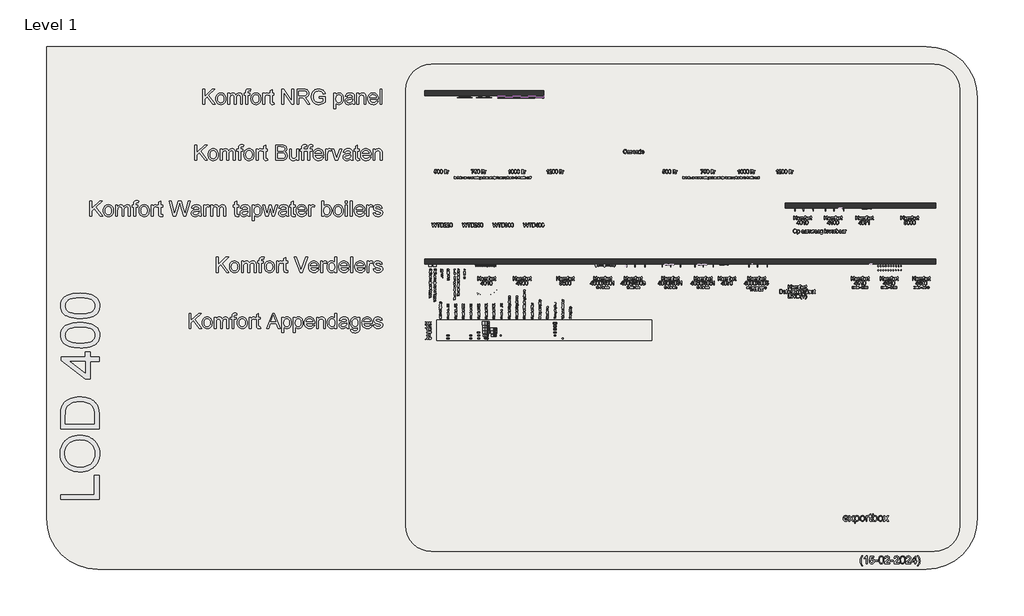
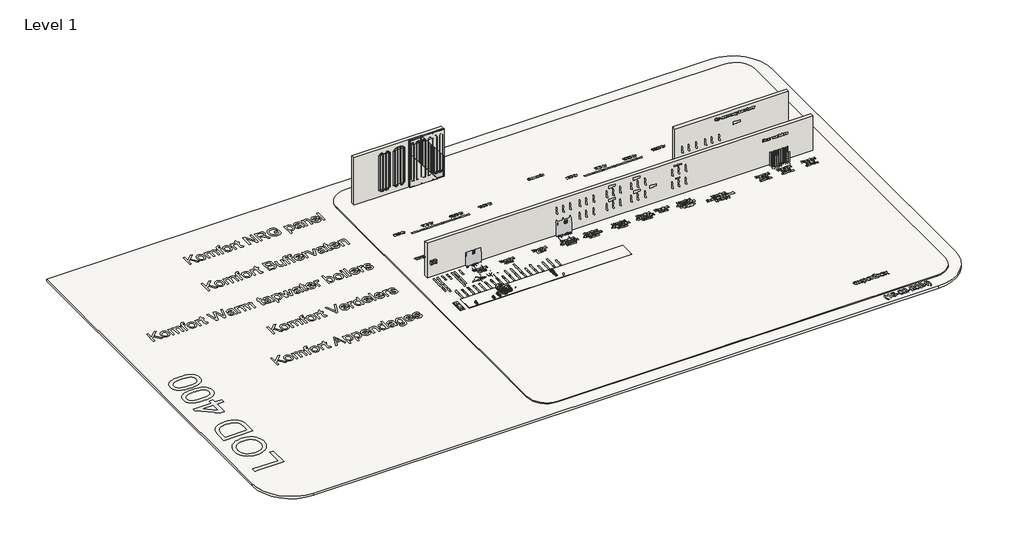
# One storey, part 1 of 34: 29 valves, 17 pipe segments, 10 members, 8 plates, 4 walls, 3 slabs, 2 proxies.
"""IFC4 building model written with IfcOpenShell, lengths in millimetres."""

from ifc_helpers import new_model, si_unit, point, frame, frame_2d, origin, origin_with_axes, place, context, project, spatial, polyline, circle_curve, trimmed, segment, composite_curve, outline, extrude, transform, mapped, element, save
from ifc_brep_helpers import plane_surface, cylinder_surface, revolved_surface, advanced_brep
from components import mechanical_equipment_cd07d01e, rectangular_mullion_c_boven_823d8da8, rectangular_mullion_c_links_526d05c5, rectangular_mullion_c_links_07a1a500, plate_3b3e8741, plate_3755ddb1, system_panel_isolatie_45mm_offset11_8af3e5f7, system_panel_isolatie_45mm_offset11_d03675fc, system_panel_isolatie_45mm_offset11_5da9fec7, valve_56e37d45, valve_d54b975c, valve_6c6028f1, valve_b4a91fd2, valve_7e726bc3, valve_2c07aacf, valve_c4cabec5, valve_452bbaa6, valve_3d6b45a5, valve_3d6cf8aa, valve_750de32e, dn_20_13b06fb2, dn_25_398dad07, dn_32_969b9d6f, dn15_c82197d8, dn15_97eb3d88, dn15_3e07b9b7, dn20_0d739131, dn20_e75ad47f, dn20_bf711299, dn20_8abca789, dn25_fd29e4d5, dn25_933a6ecd, dn32_84c84d50, dn40_05d662e0, dn50_a4595473

model = new_model("IFC4")

# Units and contexts
model_context = context("Model", 3, world=origin())
ifc_project = project(units=[si_unit("LENGTHUNIT", "METRE", prefix="MILLI")], contexts=[model_context])

# Site, building, storey
site = spatial("IfcSite", under=ifc_project)
building = spatial("IfcBuilding", under=site)
storey = spatial("IfcBuildingStorey", under=building, Name="Level 1", Elevation=0.0)

# Proxies
placement = place(None, origin())
mechanical_equipment_shape = mechanical_equipment_cd07d01e(model_context)
element("IfcBuildingElementProxy", 1, Name="400_5-_KOMF_VKRM : Met Tijdvertraging", ObjectType="400_5-_KOMF_VKRM : Met Tijdvertraging", at=placement, inside=storey, context=model_context, shape_type="MappedRepresentation", body=[
    mapped(mechanical_equipment_shape, transform((-17103.7716027, 7589.9863889, 717.5776398), x_axis=(1.0, 0.0, 0.0), y_axis=(0.0, 0.0, 1.0), z_axis=(0.0, -1.0, 0.0))),
])
element("IfcBuildingElementProxy", 2, Name="400_5-_KOMF_VKRM : Zonder Tijdvertraging", ObjectType="400_5-_KOMF_VKRM : Zonder Tijdvertraging", at=placement, inside=storey, context=model_context, shape_type="MappedRepresentation", body=[
    mapped(mechanical_equipment_shape, transform((-16923.7716027, 7589.9863889, 717.5776398), x_axis=(1.0, 0.0, 0.0), y_axis=(0.0, 0.0, 1.0), z_axis=(0.0, -1.0, 0.0))),
])

# Members
rectangular_mullion_c_boven_shape = rectangular_mullion_c_boven_823d8da8(model_context)
element("IfcMember", 3, ObjectType="Rectangular Mullion : C_boven", at=placement, inside=storey, context=model_context, shape_type="MappedRepresentation", body=[
    mapped(rectangular_mullion_c_boven_shape, transform((-13797.9102205, 14154.9863889, 2600.0), x_axis=(0.0, 0.0, 1.0), y_axis=(0.0, -1.0, 0.0), z_axis=(1.0, 0.0, 0.0))),
])
element("IfcMember", 4, ObjectType="Rectangular Mullion : C_boven", at=placement, inside=storey, context=model_context, shape_type="MappedRepresentation", body=[
    mapped(rectangular_mullion_c_boven_shape, transform((-13197.9102205, 14154.9863889, 2600.0), x_axis=(0.0, 0.0, 1.0), y_axis=(0.0, -1.0, 0.0), z_axis=(1.0, 0.0, 0.0))),
])
element("IfcMember", 5, ObjectType="Rectangular Mullion : C_boven", at=placement, inside=storey, context=model_context, shape_type="MappedRepresentation", body=[
    mapped(rectangular_mullion_c_boven_shape, transform((-12597.9102205, 14154.9863889, 2600.0), x_axis=(0.0, 0.0, 1.0), y_axis=(0.0, -1.0, 0.0), z_axis=(1.0, 0.0, 0.0))),
])
rectangular_mullion_c_links_shape = rectangular_mullion_c_links_526d05c5(model_context)
element("IfcMember", 6, ObjectType="Rectangular Mullion : C_links", at=placement, inside=storey, context=model_context, shape_type="MappedRepresentation", body=[
    mapped(rectangular_mullion_c_links_shape, transform((-13797.9102205, 14154.9863889, 40.0), x_axis=(1.0, 0.0, 0.0), y_axis=(0.0, -1.0, 0.0), z_axis=(0.0, 0.0, -1.0))),
])
element("IfcMember", 7, ObjectType="Rectangular Mullion : C_links", at=placement, inside=storey, context=model_context, shape_type="MappedRepresentation", body=[
    mapped(rectangular_mullion_c_links_shape, transform((-13197.9102205, 14154.9863889, 40.0), x_axis=(1.0, 0.0, 0.0), y_axis=(0.0, -1.0, 0.0), z_axis=(0.0, 0.0, -1.0))),
])
rectangular_mullion_c_links_2_shape = rectangular_mullion_c_links_07a1a500(model_context)
element("IfcMember", 8, ObjectType="Rectangular Mullion : C_links", at=placement, inside=storey, context=model_context, shape_type="MappedRepresentation", body=[
    mapped(rectangular_mullion_c_links_2_shape, transform((-14397.9102205, 14154.9863889, 2560.0), x_axis=(-1.0, 0.0, 0.0), y_axis=(0.0, -1.0, 0.0), z_axis=(0.0, 0.0, 1.0))),
])
element("IfcMember", 9, ObjectType="Rectangular Mullion : C_onder", at=placement, inside=storey, context=model_context, shape_type="MappedRepresentation", body=[
    mapped(rectangular_mullion_c_boven_shape, transform((-14397.9102205, 14154.9863889, 0.0), x_axis=(0.0, 0.0, -1.0), y_axis=(0.0, -1.0, 0.0), z_axis=(-1.0, 0.0, 0.0))),
])
element("IfcMember", 10, ObjectType="Rectangular Mullion : C_onder", at=placement, inside=storey, context=model_context, shape_type="MappedRepresentation", body=[
    mapped(rectangular_mullion_c_boven_shape, transform((-13797.9102205, 14154.9863889, 0.0), x_axis=(0.0, 0.0, -1.0), y_axis=(0.0, -1.0, 0.0), z_axis=(-1.0, 0.0, 0.0))),
])
element("IfcMember", 11, ObjectType="Rectangular Mullion : C_onder", at=placement, inside=storey, context=model_context, shape_type="MappedRepresentation", body=[
    mapped(rectangular_mullion_c_boven_shape, transform((-13197.9102205, 14154.9863889, 0.0), x_axis=(0.0, 0.0, -1.0), y_axis=(0.0, -1.0, 0.0), z_axis=(-1.0, 0.0, 0.0))),
])
element("IfcMember", 12, ObjectType="Rectangular Mullion : C_rechts", at=placement, inside=storey, context=model_context, shape_type="MappedRepresentation", body=[
    mapped(rectangular_mullion_c_links_2_shape, transform((-12597.9102205, 14154.9863889, 40.0), x_axis=(1.0, 0.0, 0.0), y_axis=(0.0, -1.0, 0.0), z_axis=(0.0, 0.0, -1.0))),
])

# Pipe segments
element("IfcPipeSegment", 13, ObjectType="Uponor Comfort Pipe PLUS / VVL", at=placement, inside=storey, context=model_context, shape_type="SweptSolid", body=[
    extrude(outline(composite_curve([segment(trimmed(circle_curve(frame_2d((-40.0, -15004.4849522)), 8.5), [point((-40.0, -15012.9849522))], [point((-48.5, -15004.4849522))], False, "CARTESIAN"), True, "CONTINUOUS"), segment(trimmed(circle_curve(frame_2d((-40.0, -15004.4849522)), 8.5), [point((-48.5, -15004.4849522))], [point((-40.0, -14995.9849522))], False, "CARTESIAN"), True, "CONTINUOUS"), segment(trimmed(circle_curve(frame_2d((-40.0, -15004.4849522)), 8.5), [point((-40.0, -14995.9849522))], [point((-31.5, -15004.4849522))], False, "CARTESIAN"), True, "CONTINUOUS"), segment(trimmed(circle_curve(frame_2d((-40.0, -15004.4849522)), 8.5), [point((-31.5, -15004.4849522))], [point((-40.0, -15012.9849522))], False, "CARTESIAN"), True, "CONTINUOUS")], self_intersect=False)), frame((0.0, 6459.4303166, 0.0), z_axis=(0.0, 1.0, 0.0), x_axis=(0.0, 0.0, 1.0)), (0.0, 0.0, 1.0), 246.3199618),
])
element("IfcPipeSegment", 14, ObjectType="Uponor Comfort Pipe PLUS / VVL", at=placement, inside=storey, context=model_context, shape_type="SweptSolid", body=[
    extrude(outline(composite_curve([segment(trimmed(circle_curve(frame_2d((-40.0, -15059.4849522)), 8.5), [point((-40.0, -15067.9849522))], [point((-48.5, -15059.4849522))], False, "CARTESIAN"), True, "CONTINUOUS"), segment(trimmed(circle_curve(frame_2d((-40.0, -15059.4849522)), 8.5), [point((-48.5, -15059.4849522))], [point((-40.0, -15050.9849522))], False, "CARTESIAN"), True, "CONTINUOUS"), segment(trimmed(circle_curve(frame_2d((-40.0, -15059.4849522)), 8.5), [point((-40.0, -15050.9849522))], [point((-31.5, -15059.4849522))], False, "CARTESIAN"), True, "CONTINUOUS"), segment(trimmed(circle_curve(frame_2d((-40.0, -15059.4849522)), 8.5), [point((-31.5, -15059.4849522))], [point((-40.0, -15067.9849522))], False, "CARTESIAN"), True, "CONTINUOUS")], self_intersect=False)), frame((0.0, 6479.6785333, 0.0), z_axis=(0.0, 1.0, 0.0), x_axis=(0.0, 0.0, 1.0)), (0.0, 0.0, 1.0), 226.0717451),
])
element("IfcPipeSegment", 15, ObjectType="Uponor Comfort Pipe PLUS / VVL", at=placement, inside=storey, context=model_context, shape_type="SweptSolid", body=[
    extrude(outline(composite_curve([segment(trimmed(circle_curve(frame_2d((-40.0, -15114.4849522)), 8.5), [point((-40.0, -15122.9849522))], [point((-48.5, -15114.4849522))], False, "CARTESIAN"), True, "CONTINUOUS"), segment(trimmed(circle_curve(frame_2d((-40.0, -15114.4849522)), 8.5), [point((-48.5, -15114.4849522))], [point((-40.0, -15105.9849522))], False, "CARTESIAN"), True, "CONTINUOUS"), segment(trimmed(circle_curve(frame_2d((-40.0, -15114.4849522)), 8.5), [point((-40.0, -15105.9849522))], [point((-31.5, -15114.4849522))], False, "CARTESIAN"), True, "CONTINUOUS"), segment(trimmed(circle_curve(frame_2d((-40.0, -15114.4849522)), 8.5), [point((-31.5, -15114.4849522))], [point((-40.0, -15122.9849522))], False, "CARTESIAN"), True, "CONTINUOUS")], self_intersect=False)), frame((0.0, 6504.8821347, 0.0), z_axis=(0.0, 1.0, 0.0), x_axis=(0.0, 0.0, 1.0)), (0.0, 0.0, 1.0), 200.8681436),
])
element("IfcPipeSegment", 16, ObjectType="Uponor Comfort Pipe PLUS / VVL", at=placement, inside=storey, context=model_context, shape_type="SweptSolid", body=[
    extrude(outline(composite_curve([segment(trimmed(circle_curve(frame_2d((-40.0, -15169.4849522)), 8.5), [point((-40.0, -15177.9849522))], [point((-48.5, -15169.4849522))], False, "CARTESIAN"), True, "CONTINUOUS"), segment(trimmed(circle_curve(frame_2d((-40.0, -15169.4849522)), 8.5), [point((-48.5, -15169.4849522))], [point((-40.0, -15160.9849522))], False, "CARTESIAN"), True, "CONTINUOUS"), segment(trimmed(circle_curve(frame_2d((-40.0, -15169.4849522)), 8.5), [point((-40.0, -15160.9849522))], [point((-31.5, -15169.4849522))], False, "CARTESIAN"), True, "CONTINUOUS"), segment(trimmed(circle_curve(frame_2d((-40.0, -15169.4849522)), 8.5), [point((-31.5, -15169.4849522))], [point((-40.0, -15177.9849522))], False, "CARTESIAN"), True, "CONTINUOUS")], self_intersect=False)), frame((0.0, 6537.6644702, 0.0), z_axis=(0.0, 1.0, 0.0), x_axis=(0.0, 0.0, 1.0)), (0.0, 0.0, 1.0), 168.0858081),
])
element("IfcPipeSegment", 17, ObjectType="Uponor Comfort Pipe PLUS / VVL", at=placement, inside=storey, context=model_context, shape_type="SweptSolid", body=[
    extrude(outline(composite_curve([segment(trimmed(circle_curve(frame_2d((-40.0, -15224.4849522)), 8.5), [point((-40.0, -15232.9849522))], [point((-48.5, -15224.4849522))], False, "CARTESIAN"), True, "CONTINUOUS"), segment(trimmed(circle_curve(frame_2d((-40.0, -15224.4849522)), 8.5), [point((-48.5, -15224.4849522))], [point((-40.0, -15215.9849522))], False, "CARTESIAN"), True, "CONTINUOUS"), segment(trimmed(circle_curve(frame_2d((-40.0, -15224.4849522)), 8.5), [point((-40.0, -15215.9849522))], [point((-31.5, -15224.4849522))], False, "CARTESIAN"), True, "CONTINUOUS"), segment(trimmed(circle_curve(frame_2d((-40.0, -15224.4849522)), 8.5), [point((-31.5, -15224.4849522))], [point((-40.0, -15232.9849522))], False, "CARTESIAN"), True, "CONTINUOUS")], self_intersect=False)), frame((0.0, 6581.0303886, 0.0), z_axis=(0.0, 1.0, 0.0), x_axis=(0.0, 0.0, 1.0)), (0.0, 0.0, 1.0), 124.7198897),
])
element("IfcPipeSegment", 18, ObjectType="Uponor Comfort Pipe PLUS / VVL", at=placement, inside=storey, context=model_context, shape_type="SweptSolid", body=[
    extrude(outline(composite_curve([segment(trimmed(circle_curve(frame_2d((-40.0, -15279.4849522)), 8.5), [point((-40.0, -15270.9849522))], [point((-31.5, -15279.4849522))], False, "CARTESIAN"), True, "CONTINUOUS"), segment(trimmed(circle_curve(frame_2d((-40.0, -15279.4849522)), 8.5), [point((-31.5, -15279.4849522))], [point((-40.0, -15287.9849522))], False, "CARTESIAN"), True, "CONTINUOUS"), segment(trimmed(circle_curve(frame_2d((-40.0, -15279.4849522)), 8.5), [point((-40.0, -15287.9849522))], [point((-48.5, -15279.4849522))], False, "CARTESIAN"), True, "CONTINUOUS"), segment(trimmed(circle_curve(frame_2d((-40.0, -15279.4849522)), 8.5), [point((-48.5, -15279.4849522))], [point((-40.0, -15270.9849522))], False, "CARTESIAN"), True, "CONTINUOUS")], self_intersect=False)), frame((0.0, 6640.2990542, 0.0), z_axis=(0.0, 1.0, 0.0), x_axis=(0.0, 0.0, 1.0)), (0.0, 0.0, 1.0), 65.4512241),
])
element("IfcPipeSegment", 19, ObjectType="Uponor Comfort Pipe PLUS / VVL", at=placement, inside=storey, context=model_context, shape_type="SweptSolid", body=[
    extrude(outline(composite_curve([segment(trimmed(circle_curve(frame_2d((-40.0, -15031.9849522)), 8.5), [point((-40.0, -15040.4849522))], [point((-48.5, -15031.9849522))], False, "CARTESIAN"), True, "CONTINUOUS"), segment(trimmed(circle_curve(frame_2d((-40.0, -15031.9849522)), 8.5), [point((-48.5, -15031.9849522))], [point((-40.0, -15023.4849522))], False, "CARTESIAN"), True, "CONTINUOUS"), segment(trimmed(circle_curve(frame_2d((-40.0, -15031.9849522)), 8.5), [point((-40.0, -15023.4849522))], [point((-31.5, -15031.9849522))], False, "CARTESIAN"), True, "CONTINUOUS"), segment(trimmed(circle_curve(frame_2d((-40.0, -15031.9849522)), 8.5), [point((-31.5, -15031.9849522))], [point((-40.0, -15040.4849522))], False, "CARTESIAN"), True, "CONTINUOUS")], self_intersect=False)), frame((0.0, 6469.1255845, 0.0), z_axis=(0.0, 1.0, 0.0), x_axis=(0.0, 0.0, 1.0)), (0.0, 0.0, 1.0), 236.6246939),
])
element("IfcPipeSegment", 20, ObjectType="Uponor Comfort Pipe PLUS / VVL", at=placement, inside=storey, context=model_context, shape_type="SweptSolid", body=[
    extrude(outline(composite_curve([segment(trimmed(circle_curve(frame_2d((-40.0, -15086.9849522)), 8.5), [point((-40.0, -15095.4849522))], [point((-48.5, -15086.9849522))], False, "CARTESIAN"), True, "CONTINUOUS"), segment(trimmed(circle_curve(frame_2d((-40.0, -15086.9849522)), 8.5), [point((-48.5, -15086.9849522))], [point((-40.0, -15078.4849522))], False, "CARTESIAN"), True, "CONTINUOUS"), segment(trimmed(circle_curve(frame_2d((-40.0, -15086.9849522)), 8.5), [point((-40.0, -15078.4849522))], [point((-31.5, -15086.9849522))], False, "CARTESIAN"), True, "CONTINUOUS"), segment(trimmed(circle_curve(frame_2d((-40.0, -15086.9849522)), 8.5), [point((-31.5, -15086.9849522))], [point((-40.0, -15095.4849522))], False, "CARTESIAN"), True, "CONTINUOUS")], self_intersect=False)), frame((0.0, 6491.4890493, 0.0), z_axis=(0.0, 1.0, 0.0), x_axis=(0.0, 0.0, 1.0)), (0.0, 0.0, 1.0), 214.261229),
])
element("IfcPipeSegment", 21, ObjectType="Uponor Comfort Pipe PLUS / VVL", at=placement, inside=storey, context=model_context, shape_type="SweptSolid", body=[
    extrude(outline(composite_curve([segment(trimmed(circle_curve(frame_2d((-40.0, -15141.9849522)), 8.5), [point((-40.0, -15150.4849522))], [point((-48.5, -15141.9849522))], False, "CARTESIAN"), True, "CONTINUOUS"), segment(trimmed(circle_curve(frame_2d((-40.0, -15141.9849522)), 8.5), [point((-48.5, -15141.9849522))], [point((-40.0, -15133.4849522))], False, "CARTESIAN"), True, "CONTINUOUS"), segment(trimmed(circle_curve(frame_2d((-40.0, -15141.9849522)), 8.5), [point((-40.0, -15133.4849522))], [point((-31.5, -15141.9849522))], False, "CARTESIAN"), True, "CONTINUOUS"), segment(trimmed(circle_curve(frame_2d((-40.0, -15141.9849522)), 8.5), [point((-31.5, -15141.9849522))], [point((-40.0, -15150.4849522))], False, "CARTESIAN"), True, "CONTINUOUS")], self_intersect=False)), frame((0.0, 6520.163977, 0.0), z_axis=(0.0, 1.0, 0.0), x_axis=(0.0, 0.0, 1.0)), (0.0, 0.0, 1.0), 185.5863014),
])
element("IfcPipeSegment", 22, ObjectType="Uponor Comfort Pipe PLUS / VVL", at=placement, inside=storey, context=model_context, shape_type="SweptSolid", body=[
    extrude(outline(composite_curve([segment(trimmed(circle_curve(frame_2d((-40.0, -15196.9849522)), 8.5), [point((-40.0, -15205.4849522))], [point((-48.5, -15196.9849522))], False, "CARTESIAN"), True, "CONTINUOUS"), segment(trimmed(circle_curve(frame_2d((-40.0, -15196.9849522)), 8.5), [point((-48.5, -15196.9849522))], [point((-40.0, -15188.4849522))], False, "CARTESIAN"), True, "CONTINUOUS"), segment(trimmed(circle_curve(frame_2d((-40.0, -15196.9849522)), 8.5), [point((-40.0, -15188.4849522))], [point((-31.5, -15196.9849522))], False, "CARTESIAN"), True, "CONTINUOUS"), segment(trimmed(circle_curve(frame_2d((-40.0, -15196.9849522)), 8.5), [point((-31.5, -15196.9849522))], [point((-40.0, -15205.4849522))], False, "CARTESIAN"), True, "CONTINUOUS")], self_intersect=False)), frame((0.0, 6557.7799491, 0.0), z_axis=(0.0, 1.0, 0.0), x_axis=(0.0, 0.0, 1.0)), (0.0, 0.0, 1.0), 147.9703293),
])
element("IfcPipeSegment", 23, ObjectType="Uponor Comfort Pipe PLUS / VVL", at=placement, inside=storey, context=model_context, shape_type="SweptSolid", body=[
    extrude(outline(composite_curve([segment(trimmed(circle_curve(frame_2d((-40.0, -15251.9849522)), 8.5), [point((-40.0, -15260.4849522))], [point((-48.5, -15251.9849522))], False, "CARTESIAN"), True, "CONTINUOUS"), segment(trimmed(circle_curve(frame_2d((-40.0, -15251.9849522)), 8.5), [point((-48.5, -15251.9849522))], [point((-40.0, -15243.4849522))], False, "CARTESIAN"), True, "CONTINUOUS"), segment(trimmed(circle_curve(frame_2d((-40.0, -15251.9849522)), 8.5), [point((-40.0, -15243.4849522))], [point((-31.5, -15251.9849522))], False, "CARTESIAN"), True, "CONTINUOUS"), segment(trimmed(circle_curve(frame_2d((-40.0, -15251.9849522)), 8.5), [point((-31.5, -15251.9849522))], [point((-40.0, -15260.4849522))], False, "CARTESIAN"), True, "CONTINUOUS")], self_intersect=False)), frame((0.0, 6608.1547092, 0.0), z_axis=(0.0, 1.0, 0.0), x_axis=(0.0, 0.0, 1.0)), (0.0, 0.0, 1.0), 97.5955691),
])
element("IfcPipeSegment", 24, ObjectType="Uponor Comfort Pipe PLUS / VVL", at=placement, inside=storey, context=model_context, shape_type="SweptSolid", body=[
    extrude(outline(composite_curve([segment(trimmed(circle_curve(frame_2d((-40.0, -15005.7349522)), 8.5), [point((-40.0, -15014.2349522))], [point((-48.5, -15005.7349522))], False, "CARTESIAN"), True, "CONTINUOUS"), segment(trimmed(circle_curve(frame_2d((-40.0, -15005.7349522)), 8.5), [point((-48.5, -15005.7349522))], [point((-40.0, -14997.2349522))], False, "CARTESIAN"), True, "CONTINUOUS"), segment(trimmed(circle_curve(frame_2d((-40.0, -15005.7349522)), 8.5), [point((-40.0, -14997.2349522))], [point((-31.5, -15005.7349522))], False, "CARTESIAN"), True, "CONTINUOUS"), segment(trimmed(circle_curve(frame_2d((-40.0, -15005.7349522)), 8.5), [point((-31.5, -15005.7349522))], [point((-40.0, -15014.2349522))], False, "CARTESIAN"), True, "CONTINUOUS")], self_intersect=False)), frame((0.0, 6175.7502784, 0.0), z_axis=(0.0, 1.0, 0.0), x_axis=(0.0, 0.0, 1.0)), (0.0, 0.0, 1.0), 150.4581206),
])
element("IfcPipeSegment", 25, ObjectType="Uponor Comfort Pipe PLUS / VVL", at=placement, inside=storey, context=model_context, shape_type="SweptSolid", body=[
    extrude(outline(composite_curve([segment(trimmed(circle_curve(frame_2d((-40.0, -15105.7349522)), 8.5), [point((-40.0, -15114.2349522))], [point((-48.5, -15105.7349522))], False, "CARTESIAN"), True, "CONTINUOUS"), segment(trimmed(circle_curve(frame_2d((-40.0, -15105.7349522)), 8.5), [point((-48.5, -15105.7349522))], [point((-40.0, -15097.2349522))], False, "CARTESIAN"), True, "CONTINUOUS"), segment(trimmed(circle_curve(frame_2d((-40.0, -15105.7349522)), 8.5), [point((-40.0, -15097.2349522))], [point((-31.5, -15105.7349522))], False, "CARTESIAN"), True, "CONTINUOUS"), segment(trimmed(circle_curve(frame_2d((-40.0, -15105.7349522)), 8.5), [point((-31.5, -15105.7349522))], [point((-40.0, -15114.2349522))], False, "CARTESIAN"), True, "CONTINUOUS")], self_intersect=False)), frame((0.0, 6175.7502784, 0.0), z_axis=(0.0, 1.0, 0.0), x_axis=(0.0, 0.0, 1.0)), (0.0, 0.0, 1.0), 141.9565894),
])
element("IfcPipeSegment", 26, ObjectType="Uponor Comfort Pipe PLUS / VVL", at=placement, inside=storey, context=model_context, shape_type="SweptSolid", body=[
    extrude(outline(composite_curve([segment(trimmed(circle_curve(frame_2d((-40.0, -15205.7349522)), 8.5), [point((-40.0, -15214.2349522))], [point((-48.5, -15205.7349522))], False, "CARTESIAN"), True, "CONTINUOUS"), segment(trimmed(circle_curve(frame_2d((-40.0, -15205.7349522)), 8.5), [point((-48.5, -15205.7349522))], [point((-40.0, -15197.2349522))], False, "CARTESIAN"), True, "CONTINUOUS"), segment(trimmed(circle_curve(frame_2d((-40.0, -15205.7349522)), 8.5), [point((-40.0, -15197.2349522))], [point((-31.5, -15205.7349522))], False, "CARTESIAN"), True, "CONTINUOUS"), segment(trimmed(circle_curve(frame_2d((-40.0, -15205.7349522)), 8.5), [point((-31.5, -15205.7349522))], [point((-40.0, -15214.2349522))], False, "CARTESIAN"), True, "CONTINUOUS")], self_intersect=False)), frame((0.0, 6175.7502784, 0.0), z_axis=(0.0, 1.0, 0.0), x_axis=(0.0, 0.0, 1.0)), (0.0, 0.0, 1.0), 139.2927912),
])
element("IfcPipeSegment", 27, ObjectType="Uponor Comfort Pipe PLUS / VVL", at=placement, inside=storey, context=model_context, shape_type="SweptSolid", body=[
    extrude(outline(composite_curve([segment(trimmed(circle_curve(frame_2d((-40.0, -15305.7349522)), 8.5), [point((-40.0, -15314.2349522))], [point((-48.5, -15305.7349522))], False, "CARTESIAN"), True, "CONTINUOUS"), segment(trimmed(circle_curve(frame_2d((-40.0, -15305.7349522)), 8.5), [point((-48.5, -15305.7349522))], [point((-40.0, -15297.2349522))], False, "CARTESIAN"), True, "CONTINUOUS"), segment(trimmed(circle_curve(frame_2d((-40.0, -15305.7349522)), 8.5), [point((-40.0, -15297.2349522))], [point((-31.5, -15305.7349522))], False, "CARTESIAN"), True, "CONTINUOUS"), segment(trimmed(circle_curve(frame_2d((-40.0, -15305.7349522)), 8.5), [point((-31.5, -15305.7349522))], [point((-40.0, -15314.2349522))], False, "CARTESIAN"), True, "CONTINUOUS")], self_intersect=False)), frame((0.0, 6175.7502784, 0.0), z_axis=(0.0, 1.0, 0.0), x_axis=(0.0, 0.0, 1.0)), (0.0, 0.0, 1.0), 139.2011558),
])
element("IfcPipeSegment", 28, ObjectType="Uponor Comfort Pipe PLUS / VVL", at=placement, inside=storey, context=model_context, shape_type="SweptSolid", body=[
    extrude(outline(composite_curve([segment(trimmed(circle_curve(frame_2d((-40.0, -15405.7349522)), 8.5), [point((-40.0, -15414.2349522))], [point((-48.5, -15405.7349522))], False, "CARTESIAN"), True, "CONTINUOUS"), segment(trimmed(circle_curve(frame_2d((-40.0, -15405.7349522)), 8.5), [point((-48.5, -15405.7349522))], [point((-40.0, -15397.2349522))], False, "CARTESIAN"), True, "CONTINUOUS"), segment(trimmed(circle_curve(frame_2d((-40.0, -15405.7349522)), 8.5), [point((-40.0, -15397.2349522))], [point((-31.5, -15405.7349522))], False, "CARTESIAN"), True, "CONTINUOUS"), segment(trimmed(circle_curve(frame_2d((-40.0, -15405.7349522)), 8.5), [point((-31.5, -15405.7349522))], [point((-40.0, -15414.2349522))], False, "CARTESIAN"), True, "CONTINUOUS")], self_intersect=False)), frame((0.0, 6175.7502784, 0.0), z_axis=(0.0, 1.0, 0.0), x_axis=(0.0, 0.0, 1.0)), (0.0, 0.0, 1.0), 140.4556943),
])
element("IfcPipeSegment", 29, ObjectType="Uponor Comfort Pipe PLUS / VVL", at=placement, inside=storey, context=model_context, shape_type="SweptSolid", body=[
    extrude(outline(composite_curve([segment(trimmed(circle_curve(frame_2d((-40.0, -15505.7349522)), 8.5), [point((-40.0, -15514.2349522))], [point((-48.5, -15505.7349522))], False, "CARTESIAN"), True, "CONTINUOUS"), segment(trimmed(circle_curve(frame_2d((-40.0, -15505.7349522)), 8.5), [point((-48.5, -15505.7349522))], [point((-40.0, -15497.2349522))], False, "CARTESIAN"), True, "CONTINUOUS"), segment(trimmed(circle_curve(frame_2d((-40.0, -15505.7349522)), 8.5), [point((-40.0, -15497.2349522))], [point((-31.5, -15505.7349522))], False, "CARTESIAN"), True, "CONTINUOUS"), segment(trimmed(circle_curve(frame_2d((-40.0, -15505.7349522)), 8.5), [point((-31.5, -15505.7349522))], [point((-40.0, -15514.2349522))], False, "CARTESIAN"), True, "CONTINUOUS")], self_intersect=False)), frame((0.0, 6175.7502784, 0.0), z_axis=(0.0, 1.0, 0.0), x_axis=(0.0, 0.0, 1.0)), (0.0, 0.0, 1.0), 142.5766436),
])

# Plates
plate_shape = plate_3b3e8741(model_context)
element("IfcPlate", 30, ObjectType="400_56_KOMF_NRG panel_asp_boven : Komfort NRG panel 600", at=placement, inside=storey, context=model_context, shape_type="MappedRepresentation", body=[
    mapped(plate_shape, transform((-14933.7716027, 14119.9863889, 0.0), x_axis=(1.0, 0.0, 0.0), y_axis=(0.0, 1.0, 0.0), z_axis=(0.0, 0.0, 1.0))),
])
plate_2_shape = plate_3755ddb1(model_context)
element("IfcPlate", 31, ObjectType="400_56_KOMF_NRG panel : Komfort NRG panel 600", at=placement, inside=storey, context=model_context, shape_type="MappedRepresentation", body=[
    mapped(plate_2_shape, transform((-14097.9102205, 14119.9863889, 0.0), x_axis=(1.0, 0.0, 0.0), y_axis=(0.0, 1.0, 0.0), z_axis=(0.0, 0.0, 1.0))),
])
element("IfcPlate", 32, ObjectType="400_56_KOMF_NRG panel : Komfort NRG panel 600", at=placement, inside=storey, context=model_context, shape_type="MappedRepresentation", body=[
    mapped(plate_2_shape, transform((-13497.9102205, 14119.9863889, 0.0), x_axis=(1.0, 0.0, 0.0), y_axis=(0.0, 1.0, 0.0), z_axis=(0.0, 0.0, 1.0))),
])
element("IfcPlate", 33, ObjectType="400_56_KOMF_NRG panel : Komfort NRG panel 600", at=placement, inside=storey, context=model_context, shape_type="MappedRepresentation", body=[
    mapped(plate_2_shape, transform((-12897.9102205, 14119.9863889, 0.0), x_axis=(1.0, 0.0, 0.0), y_axis=(0.0, 1.0, 0.0), z_axis=(0.0, 0.0, 1.0))),
])
element("IfcPlate", 34, ObjectType="400_56_KOMF_NRG panel : Komfort NRG panel 600", at=placement, inside=storey, context=model_context, shape_type="MappedRepresentation", body=[
    mapped(plate_2_shape, transform((-15693.7716027, 14119.9863889, 0.0), x_axis=(1.0, 0.0, 0.0), y_axis=(0.0, 1.0, 0.0), z_axis=(0.0, 0.0, 1.0))),
])
system_panel_isolatie_45mm_offset11_shape = system_panel_isolatie_45mm_offset11_8af3e5f7(model_context)
element("IfcPlate", 35, ObjectType="System Panel : isolatie_45mm_offset11", at=placement, inside=storey, context=model_context, shape_type="MappedRepresentation", body=[
    mapped(system_panel_isolatie_45mm_offset11_shape, transform((-14107.4102205, 14154.9863889, 1.0), x_axis=(1.0, 0.0, 0.0), y_axis=(0.0, 1.0, 0.0), z_axis=(0.0, 0.0, 1.0))),
])
system_panel_isolatie_45mm_offset11_2_shape = system_panel_isolatie_45mm_offset11_d03675fc(model_context)
element("IfcPlate", 36, ObjectType="System Panel : isolatie_45mm_offset11", at=placement, inside=storey, context=model_context, shape_type="MappedRepresentation", body=[
    mapped(system_panel_isolatie_45mm_offset11_2_shape, transform((-13517.4102205, 14154.9863889, 1.0), x_axis=(1.0, 0.0, 0.0), y_axis=(0.0, 1.0, 0.0), z_axis=(0.0, 0.0, 1.0))),
])
system_panel_isolatie_45mm_offset11_3_shape = system_panel_isolatie_45mm_offset11_5da9fec7(model_context)
element("IfcPlate", 37, ObjectType="System Panel : isolatie_45mm_offset11", at=placement, inside=storey, context=model_context, shape_type="MappedRepresentation", body=[
    mapped(system_panel_isolatie_45mm_offset11_3_shape, transform((-12907.9102205, 14154.9863889, 1.0), x_axis=(1.0, 0.0, 0.0), y_axis=(0.0, 1.0, 0.0), z_axis=(0.0, 0.0, 1.0))),
])

# Slabs
element("IfcSlab", 38, ObjectType="Floor 1", at=placement, inside=storey, context=model_context, shape_type="SweptSolid", body=[
    extrude(outline(polyline([(-8353.7716027, 5389.9863889), (-8353.7716027, 4583.8631989), (-16798.9250614, 4583.8631989), (-16798.9250614, 5389.9863889), (-8353.7716027, 5389.9863889)])), origin_with_axes(), (0.0, 0.0, 1.0), 20.0),
])
element("IfcSlab", 39, ObjectType="vloer", at=placement, inside=storey, context=model_context, shape_type="AdvancedBrep", body=[
    advanced_brep(
    [(2430.0234284, 16130.8538369, -170.0), (4430.0234284, 14130.8538369, -170.0), (4430.0234284, -2401.6992366, -170.0), (2430.0234284, -4401.6992366, -170.0), (-30104.0955637, -4401.6992366, -170.0), (-32104.0955637, -2401.6992366, -170.0), (-32104.0955637, 16130.8538369, -170.0), (4430.0234284, 14130.8538369, -50.0), (2430.0234284, 16130.8538369, -50.0), (-32104.0955637, 16130.8538369, -50.0), (-32104.0955637, -2401.6992366, -50.0), (-30104.0955637, -4401.6992366, -50.0), (2430.0234284, -4401.6992366, -50.0), (4430.0234284, -2401.6992366, -50.0), (-17004.0955637, 15430.8538369, -50.0), (2730.0234284, 15430.8538369, -50.0), (3730.0234284, 14430.8538369, -50.0), (3730.0234284, -2701.6992366, -50.0), (2730.0234284, -3701.6992366, -50.0), (-17004.0955637, -3701.6992366, -50.0), (-18004.0955637, -2701.6992366, -50.0), (-18004.0955637, 14430.8538369, -50.0), (2730.0234284, 15430.8538369, -120.0), (-17004.0955637, 15430.8538369, -120.0), (-18004.0955637, 14430.8538369, -120.0), (-18004.0955637, -2701.6992366, -120.0), (-17004.0955637, -3701.6992366, -120.0), (2730.0234284, -3701.6992366, -120.0), (3730.0234284, -2701.6992366, -120.0), (3730.0234284, 14430.8538369, -120.0)],
    [
        (0, 1, circle_curve(frame((2430.0234284, 14130.8538369, -170.0), z_axis=(0.0, 0.0, -1.0), x_axis=(1.0, 0.0, 0.0)), 2000.0)),
        (1, 2),
        (2, 3, circle_curve(frame((2430.0234284, -2401.6992366, -170.0), z_axis=(0.0, 0.0, -1.0), x_axis=(1.0, 0.0, 0.0)), 2000.0)),
        (3, 4),
        (4, 5, circle_curve(frame((-30104.0955637, -2401.6992366, -170.0), z_axis=(0.0, 0.0, -1.0), x_axis=(1.0, 0.0, 0.0)), 2000.0)),
        (5, 6),
        (6, 0),
        (7, 8, circle_curve(frame((2430.0234284, 14130.8538369, -50.0), z_axis=(0.0, 0.0, 1.0), x_axis=(1.0, 0.0, 0.0)), 2000.0)),
        (8, 9),
        (9, 10),
        (10, 11, circle_curve(frame((-30104.0955637, -2401.6992366, -50.0), z_axis=(0.0, 0.0, 1.0), x_axis=(1.0, 0.0, 0.0)), 2000.0)),
        (11, 12),
        (12, 13, circle_curve(frame((2430.0234284, -2401.6992366, -50.0), z_axis=(0.0, 0.0, 1.0), x_axis=(1.0, 0.0, 0.0)), 2000.0)),
        (13, 7),
        (14, 15),
        (15, 16, circle_curve(frame((2730.0234284, 14430.8538369, -50.0), z_axis=(0.0, 0.0, -1.0), x_axis=(1.0, 0.0, 0.0)), 1000.0)),
        (16, 17),
        (17, 18, circle_curve(frame((2730.0234284, -2701.6992366, -50.0), z_axis=(0.0, 0.0, -1.0), x_axis=(1.0, 0.0, 0.0)), 1000.0)),
        (18, 19),
        (19, 20, circle_curve(frame((-17004.0955637, -2701.6992366, -50.0), z_axis=(0.0, 0.0, -1.0), x_axis=(1.0, 0.0, 0.0)), 1000.0)),
        (20, 21),
        (21, 14, circle_curve(frame((-17004.0955637, 14430.8538369, -50.0), z_axis=(0.0, 0.0, -1.0), x_axis=(1.0, 0.0, 0.0)), 1000.0)),
        (0, 8),
        (7, 1),
        (13, 2),
        (12, 3),
        (11, 4),
        (10, 5),
        (9, 6),
        (22, 23),
        (23, 24, circle_curve(frame((-17004.0955637, 14430.8538369, -120.0), z_axis=(0.0, 0.0, 1.0), x_axis=(1.0, 0.0, 0.0)), 1000.0)),
        (24, 25),
        (25, 26, circle_curve(frame((-17004.0955637, -2701.6992366, -120.0), z_axis=(0.0, 0.0, 1.0), x_axis=(1.0, 0.0, 0.0)), 1000.0)),
        (26, 27),
        (27, 28, circle_curve(frame((2730.0234284, -2701.6992366, -120.0), z_axis=(0.0, 0.0, 1.0), x_axis=(1.0, 0.0, 0.0)), 1000.0)),
        (28, 29),
        (29, 22, circle_curve(frame((2730.0234284, 14430.8538369, -120.0), z_axis=(0.0, 0.0, 1.0), x_axis=(1.0, 0.0, 0.0)), 1000.0)),
        (22, 15),
        (14, 23),
        (29, 16),
        (28, 17),
        (27, 18),
        (26, 19),
        (25, 20),
        (24, 21),
    ],
    [
        plane_surface(frame((4430.0234284, 14130.8538369, -170.0), z_axis=(0.0, 0.0, -1.0), x_axis=(0.0, -1.0, 0.0))),
        plane_surface(frame((4430.0234284, 14130.8538369, -50.0), z_axis=(0.0, 0.0, 1.0), x_axis=(0.0, 1.0, 0.0))),
        cylinder_surface(frame((2430.0234284, 14130.8538369, -50.0), z_axis=(0.0, 0.0, -1.0), x_axis=(1.0, 0.0, 0.0)), 2000.0),
        plane_surface(frame((4430.0234284, 14130.8538369, -170.0), z_axis=(1.0, 0.0, 0.0), x_axis=(0.0, 0.0, 1.0))),
        cylinder_surface(frame((2430.0234284, -2401.6992366, -50.0), z_axis=(0.0, 0.0, -1.0), x_axis=(1.0, 0.0, 0.0)), 2000.0),
        plane_surface(frame((2430.0234284, -4401.6992366, -170.0), z_axis=(0.0, -1.0, 0.0), x_axis=(0.0, 0.0, 1.0))),
        cylinder_surface(frame((-30104.0955637, -2401.6992366, -50.0), z_axis=(0.0, 0.0, -1.0), x_axis=(1.0, 0.0, 0.0)), 2000.0),
        plane_surface(frame((-32104.0955637, -2401.6992366, -170.0), z_axis=(-1.0, 0.0, 0.0), x_axis=(0.0, 0.0, 1.0))),
        plane_surface(frame((-32104.0955637, 16130.8538369, -170.0), z_axis=(0.0, 1.0, 0.0), x_axis=(0.0, 0.0, 1.0))),
        plane_surface(frame((-46165.0428967, 15430.8538369, -120.0), z_axis=(0.0, 0.0, 1.0), x_axis=(1.0, 0.0, 0.0))),
        plane_surface(frame((-17004.0955637, 15430.8538369, -120.0), z_axis=(0.0, -1.0, 0.0), x_axis=(0.0, 0.0, 1.0))),
        revolved_surface(polyline([(3730.0234284, 14430.8538369, -120.0), (3730.0234284, 14430.8538369, -50.0)]), (2730.0234284, 14430.8538369, 0.0), (0.0, 0.0, -1.0)),
        plane_surface(frame((3730.0234284, 14430.8538369, -120.0), z_axis=(-1.0, 0.0, 0.0), x_axis=(0.0, 0.0, 1.0))),
        revolved_surface(polyline([(3730.0234284, -2701.6992366, -120.0), (3730.0234284, -2701.6992366, -50.0)]), (2730.0234284, -2701.6992366, 0.0), (0.0, 0.0, -1.0)),
        plane_surface(frame((2730.0234284, -3701.6992366, -120.0), z_axis=(0.0, 1.0, 0.0), x_axis=(0.0, 0.0, 1.0))),
        revolved_surface(polyline([(-16004.0955637, -2701.6992366, -120.0), (-16004.0955637, -2701.6992366, -50.0)]), (-17004.0955637, -2701.6992366, 0.0), (0.0, 0.0, -1.0)),
        plane_surface(frame((-18004.0955637, -2701.6992366, -120.0), z_axis=(1.0, 0.0, 0.0), x_axis=(0.0, 0.0, 1.0))),
        revolved_surface(polyline([(-16004.0955637, 14430.8538369, -120.0), (-16004.0955637, 14430.8538369, -50.0)]), (-17004.0955637, 14430.8538369, 0.0), (0.0, 0.0, -1.0)),
    ],
    [
        (0, [[1, 2, 3, 4, 5, 6, 7]]),
        (1, [[8, 9, 10, 11, 12, 13, 14], [15, 16, 17, 18, 19, 20, 21, 22]]),
        (2, [[-1, 23, -8, 24]]),
        (3, [[-2, -24, -14, 25]]),
        (4, [[-3, -25, -13, 26]]),
        (5, [[-4, -26, -12, 27]]),
        (6, [[-5, -27, -11, 28]]),
        (7, [[-6, -28, -10, 29]]),
        (8, [[-7, -29, -9, -23]]),
        (9, [[30, 31, 32, 33, 34, 35, 36, 37]]),
        (10, [[-30, 38, -15, 39]]),
        (11, [[-37, 40, -16, -38]]),
        (12, [[-36, 41, -17, -40]]),
        (13, [[-35, 42, -18, -41]]),
        (14, [[-34, 43, -19, -42]]),
        (15, [[-33, 44, -20, -43]]),
        (16, [[-32, 45, -21, -44]]),
        (17, [[-31, -39, -22, -45]]),
    ],
),
])
element("IfcSlab", 40, ObjectType="vloer", at=placement, inside=storey, context=model_context, shape_type="SweptSolid", body=[
    extrude(outline(composite_curve([segment(polyline([(-17004.0955637, 15430.8538369), (2730.0234284, 15430.8538369)]), True, "CONTINUOUS"), segment(trimmed(circle_curve(frame_2d((2730.0234284, 14430.8538369)), 1000.0), [point((2730.0234284, 15430.8538369))], [point((3730.0234284, 14430.8538369))], False, "CARTESIAN"), True, "CONTINUOUS"), segment(polyline([(3730.0234284, 14430.8538369), (3730.0234284, -2701.6992366)]), True, "CONTINUOUS"), segment(trimmed(circle_curve(frame_2d((2730.0234284, -2701.6992366)), 1000.0), [point((3730.0234284, -2701.6992366))], [point((2730.0234284, -3701.6992366))], False, "CARTESIAN"), True, "CONTINUOUS"), segment(polyline([(2730.0234284, -3701.6992366), (-17004.0955637, -3701.6992366)]), True, "CONTINUOUS"), segment(trimmed(circle_curve(frame_2d((-17004.0955637, -2701.6992366)), 1000.0), [point((-17004.0955637, -3701.6992366))], [point((-18004.0955637, -2701.6992366))], False, "CARTESIAN"), True, "CONTINUOUS"), segment(polyline([(-18004.0955637, -2701.6992366), (-18004.0955637, 14430.8538369)]), True, "CONTINUOUS"), segment(trimmed(circle_curve(frame_2d((-17004.0955637, 14430.8538369)), 1000.0), [point((-18004.0955637, 14430.8538369))], [point((-17004.0955637, 15430.8538369))], False, "CARTESIAN"), True, "CONTINUOUS")], self_intersect=False)), frame((0.0, 0.0, -120.0), z_axis=(0.0, 0.0, 1.0), x_axis=(1.0, 0.0, 0.0)), (0.0, 0.0, 1.0), 120.0),
])

# Valves
valve_shape = valve_56e37d45(model_context)
element("IfcValve", 41, ObjectType="400_56_KOMF_VTR DN20-50 : DN 40, meet & vul/aftap", at=placement, inside=storey, context=model_context, shape_type="MappedRepresentation", body=[
    mapped(valve_shape, transform((-14848.9250614, 5143.7252553, 70.0), x_axis=(1.0, 0.0, 0.0), y_axis=(0.0, 1.0, 0.0), z_axis=(0.0, 0.0, 1.0))),
])
valve_2_shape = valve_d54b975c(model_context)
element("IfcValve", 42, ObjectType="400_56_KOMF_VTR DN20-50 : DN 50, meet & vul/aftap", at=placement, inside=storey, context=model_context, shape_type="MappedRepresentation", body=[
    mapped(valve_2_shape, transform((-14848.9250614, 5263.7252553, 70.0), x_axis=(1.0, 0.0, 0.0), y_axis=(0.0, 1.0, 0.0), z_axis=(0.0, 0.0, 1.0))),
])
valve_3_shape = valve_6c6028f1(model_context)
element("IfcValve", 43, ObjectType="400_56_KOMF_VTR DN20-50 : DN 32, meet & vul/aftap", at=placement, inside=storey, context=model_context, shape_type="MappedRepresentation", body=[
    mapped(valve_3_shape, transform((-14848.9250614, 5023.7252553, 70.0), x_axis=(1.0, 0.0, 0.0), y_axis=(0.0, 1.0, 0.0), z_axis=(0.0, 0.0, 1.0))),
])
valve_4_shape = valve_b4a91fd2(model_context)
element("IfcValve", 44, ObjectType="400_56_KOMF_VTR DN20-50 : DN 25, meet & vul/aftap", at=placement, inside=storey, context=model_context, shape_type="MappedRepresentation", body=[
    mapped(valve_4_shape, transform((-14848.9250614, 4903.7252553, 70.0), x_axis=(1.0, 0.0, 0.0), y_axis=(0.0, 1.0, 0.0), z_axis=(0.0, 0.0, 1.0))),
])
valve_5_shape = valve_7e726bc3(model_context)
element("IfcValve", 45, ObjectType="400_56_KOMF_VTR DN20-50 : DN 20, meet & vul/aftap", at=placement, inside=storey, context=model_context, shape_type="MappedRepresentation", body=[
    mapped(valve_5_shape, transform((-14848.9250614, 4783.7252553, 70.0), x_axis=(1.0, 0.0, 0.0), y_axis=(0.0, 1.0, 0.0), z_axis=(0.0, 0.0, 1.0))),
])
valve_6_shape = valve_2c07aacf(model_context)
element("IfcValve", 46, ObjectType="400_56_KOMF_VTR DN20-50 : DN 15, meet & vul/aftap", at=placement, inside=storey, context=model_context, shape_type="MappedRepresentation", body=[
    mapped(valve_6_shape, transform((-14848.9250614, 4663.7252553, 70.0), x_axis=(1.0, 0.0, 0.0), y_axis=(0.0, 1.0, 0.0), z_axis=(0.0, 0.0, 1.0))),
])
valve_7_shape = valve_c4cabec5(model_context)
element("IfcValve", 47, ObjectType="400_5-_KOMF_terugslagklep_PN_25_brons_DN15-50 : DN20 3/4''", at=placement, inside=storey, context=model_context, shape_type="MappedRepresentation", body=[
    mapped(valve_7_shape, transform((-12140.4250584, 4783.7252553, 55.0), x_axis=(1.0, 0.0, 0.0), y_axis=(0.0, 1.0, 0.0), z_axis=(0.0, 0.0, 1.0))),
])
valve_8_shape = valve_452bbaa6(model_context)
element("IfcValve", 48, ObjectType="400_5-_KOMF_terugslagklep_PN_25_brons_DN15-50 : DN25 1''", at=placement, inside=storey, context=model_context, shape_type="MappedRepresentation", body=[
    mapped(valve_8_shape, transform((-12140.4250584, 4903.7252553, 55.0), x_axis=(1.0, 0.0, 0.0), y_axis=(0.0, 1.0, 0.0), z_axis=(0.0, 0.0, 1.0))),
])
valve_9_shape = valve_3d6b45a5(model_context)
element("IfcValve", 49, ObjectType="400_5-_KOMF_terugslagklep_PN_25_brons_DN15-50 : DN32 1¼''", at=placement, inside=storey, context=model_context, shape_type="MappedRepresentation", body=[
    mapped(valve_9_shape, transform((-12140.4250584, 5023.7252553, 55.0), x_axis=(1.0, 0.0, 0.0), y_axis=(0.0, 1.0, 0.0), z_axis=(0.0, 0.0, 1.0))),
])
valve_10_shape = valve_3d6cf8aa(model_context)
element("IfcValve", 50, ObjectType="400_5-_KOMF_terugslagklep_PN_25_brons_DN15-50 : DN40 1½”", at=placement, inside=storey, context=model_context, shape_type="MappedRepresentation", body=[
    mapped(valve_10_shape, transform((-12140.4250584, 5143.7252553, 55.0), x_axis=(1.0, 0.0, 0.0), y_axis=(0.0, 1.0, 0.0), z_axis=(0.0, 0.0, 1.0))),
])
valve_11_shape = valve_750de32e(model_context)
element("IfcValve", 51, ObjectType="400_5-_KOMF_terugslagklep_PN_25_brons_DN15-50 : DN50 2”", at=placement, inside=storey, context=model_context, shape_type="MappedRepresentation", body=[
    mapped(valve_11_shape, transform((-12140.4250584, 5263.7252553, 35.0), x_axis=(1.0, 0.0, 0.0), y_axis=(0.0, 1.0, 0.0), z_axis=(0.0, 0.0, 1.0))),
])
dn_20_shape = dn_20_13b06fb2(model_context)
element("IfcValve", 52, ObjectType="400_56_KOMF_VTR DN20-50 : DN 20", at=placement, inside=storey, context=model_context, shape_type="MappedRepresentation", body=[
    mapped(dn_20_shape, transform((-14548.9250614, 4783.7252553, 70.0), x_axis=(1.0, 0.0, 0.0), y_axis=(0.0, 1.0, 0.0), z_axis=(0.0, 0.0, 1.0))),
])
dn_25_shape = dn_25_398dad07(model_context)
element("IfcValve", 53, ObjectType="400_56_KOMF_VTR DN20-50 : DN 25", at=placement, inside=storey, context=model_context, shape_type="MappedRepresentation", body=[
    mapped(dn_25_shape, transform((-14548.9250614, 4903.7252553, 70.0), x_axis=(1.0, 0.0, 0.0), y_axis=(0.0, 1.0, 0.0), z_axis=(0.0, 0.0, 1.0))),
])
dn_32_shape = dn_32_969b9d6f(model_context)
element("IfcValve", 54, ObjectType="400_56_KOMF_VTR DN20-50 : DN 32", at=placement, inside=storey, context=model_context, shape_type="MappedRepresentation", body=[
    mapped(dn_32_shape, transform((-14548.9250614, 5023.7252553, 70.0), x_axis=(1.0, 0.0, 0.0), y_axis=(0.0, 1.0, 0.0), z_axis=(0.0, 0.0, 1.0))),
])
dn15_shape = dn15_c82197d8(model_context)
element("IfcValve", 55, ObjectType="400_56_KOMF_VTZ : DN15", at=placement, inside=storey, context=model_context, shape_type="MappedRepresentation", body=[
    mapped(dn15_shape, transform((-15148.9250614, 4663.7252553, 50.0), x_axis=(1.0, 0.0, 0.0), y_axis=(0.0, 1.0, 0.0), z_axis=(0.0, 0.0, 1.0))),
])
dn15_2_shape = dn15_97eb3d88(model_context)
element("IfcValve", 56, ObjectType="400_56_KOMF_ATZ : DN15", at=placement, inside=storey, context=model_context, shape_type="MappedRepresentation", body=[
    mapped(dn15_2_shape, transform((-16348.9250614, 4663.7252553, 50.0), x_axis=(1.0, 0.0, 0.0), y_axis=(0.0, 1.0, 0.0), z_axis=(0.0, 0.0, 1.0))),
])
dn15_3_shape = dn15_3e07b9b7(model_context)
element("IfcValve", 57, ObjectType="400_56_KOMF_HTZ : DN15", at=placement, inside=storey, context=model_context, shape_type="MappedRepresentation", body=[
    mapped(dn15_3_shape, transform((-15448.9250614, 4663.7252553, 50.0), x_axis=(1.0, 0.0, 0.0), y_axis=(0.0, 1.0, 0.0), z_axis=(0.0, 0.0, 1.0))),
])
dn20_shape = dn20_0d739131(model_context)
element("IfcValve", 58, ObjectType="400_5-_KOMF_Isolatieschaal_DN20-50 : DN20", at=placement, inside=storey, context=model_context, shape_type="MappedRepresentation", body=[
    mapped(dn20_shape, transform((-14535.3064294, 4783.7252553, 70.0000004), x_axis=(-1.0, 0.0, 0.0), y_axis=(0.0, -1.0, 0.0), z_axis=(0.0, 0.0, 1.0))),
])
element("IfcValve", 59, ObjectType="400_5-_KOMF_Isolatieschaal_DN20-50 : DN20", at=placement, inside=storey, context=model_context, shape_type="MappedRepresentation", body=[
    mapped(dn20_shape, transform((-14835.3064294, 4783.7252553, 70.0000004), x_axis=(-1.0, 0.0, 0.0), y_axis=(0.0, -1.0, 0.0), z_axis=(0.0, 0.0, 1.0))),
])
dn20_2_shape = dn20_e75ad47f(model_context)
element("IfcValve", 60, ObjectType="400_56_KOMF_VTZ : DN20", at=placement, inside=storey, context=model_context, shape_type="MappedRepresentation", body=[
    mapped(dn20_2_shape, transform((-15148.9250614, 4783.7252553, 50.0), x_axis=(1.0, 0.0, 0.0), y_axis=(0.0, 1.0, 0.0), z_axis=(0.0, 0.0, 1.0))),
])
dn20_3_shape = dn20_bf711299(model_context)
element("IfcValve", 61, ObjectType="400_56_KOMF_ATZ : DN20", at=placement, inside=storey, context=model_context, shape_type="MappedRepresentation", body=[
    mapped(dn20_3_shape, transform((-16348.9250614, 4783.7252553, 50.0), x_axis=(1.0, 0.0, 0.0), y_axis=(0.0, 1.0, 0.0), z_axis=(0.0, 0.0, 1.0))),
])
dn20_4_shape = dn20_8abca789(model_context)
element("IfcValve", 62, ObjectType="400_56_KOMF_HTZ : DN20", at=placement, inside=storey, context=model_context, shape_type="MappedRepresentation", body=[
    mapped(dn20_4_shape, transform((-15448.9250614, 4783.7252553, 50.0), x_axis=(1.0, 0.0, 0.0), y_axis=(0.0, 1.0, 0.0), z_axis=(0.0, 0.0, 1.0))),
])
dn25_shape = dn25_fd29e4d5(model_context)
element("IfcValve", 63, ObjectType="400_5-_KOMF_Isolatieschaal_DN20-50 : DN25", at=placement, inside=storey, context=model_context, shape_type="MappedRepresentation", body=[
    mapped(dn25_shape, transform((-14535.3064294, 4903.7252553, 70.0000004), x_axis=(-1.0, 0.0, 0.0), y_axis=(0.0, -1.0, 0.0), z_axis=(0.0, 0.0, 1.0))),
])
element("IfcValve", 64, ObjectType="400_5-_KOMF_Isolatieschaal_DN20-50 : DN25", at=placement, inside=storey, context=model_context, shape_type="MappedRepresentation", body=[
    mapped(dn25_shape, transform((-14835.3064294, 4903.7252553, 70.0000004), x_axis=(-1.0, 0.0, 0.0), y_axis=(0.0, -1.0, 0.0), z_axis=(0.0, 0.0, 1.0))),
])
dn25_2_shape = dn25_933a6ecd(model_context)
element("IfcValve", 65, ObjectType="400_56_KOMF_VTZ : DN25", at=placement, inside=storey, context=model_context, shape_type="MappedRepresentation", body=[
    mapped(dn25_2_shape, transform((-15148.9250614, 4903.7252553, 50.0), x_axis=(1.0, 0.0, 0.0), y_axis=(0.0, 1.0, 0.0), z_axis=(0.0, 0.0, 1.0))),
])
dn32_shape = dn32_84c84d50(model_context)
element("IfcValve", 66, ObjectType="400_5-_KOMF_Isolatieschaal_DN20-50 : DN32", at=placement, inside=storey, context=model_context, shape_type="MappedRepresentation", body=[
    mapped(dn32_shape, transform((-14835.3064294, 5023.7252553, 70.0000004), x_axis=(-1.0, 0.0, 0.0), y_axis=(0.0, -1.0, 0.0), z_axis=(0.0, 0.0, 1.0))),
])
element("IfcValve", 67, ObjectType="400_5-_KOMF_Isolatieschaal_DN20-50 : DN32", at=placement, inside=storey, context=model_context, shape_type="MappedRepresentation", body=[
    mapped(dn32_shape, transform((-14535.3064294, 5023.7252553, 70.0000004), x_axis=(-1.0, 0.0, 0.0), y_axis=(0.0, -1.0, 0.0), z_axis=(0.0, 0.0, 1.0))),
])
dn40_shape = dn40_05d662e0(model_context)
element("IfcValve", 68, ObjectType="400_5-_KOMF_Isolatieschaal_DN20-50 : DN40", at=placement, inside=storey, context=model_context, shape_type="MappedRepresentation", body=[
    mapped(dn40_shape, transform((-14835.3064294, 5143.7252553, 70.0000004), x_axis=(-1.0, 0.0, 0.0), y_axis=(0.0, -1.0, 0.0), z_axis=(0.0, 0.0, 1.0))),
])
dn50_shape = dn50_a4595473(model_context)
element("IfcValve", 69, ObjectType="400_5-_KOMF_Isolatieschaal_DN20-50 : DN50", at=placement, inside=storey, context=model_context, shape_type="MappedRepresentation", body=[
    mapped(dn50_shape, transform((-14835.3064294, 5263.7252553, 70.0000004), x_axis=(-1.0, 0.0, 0.0), y_axis=(0.0, -1.0, 0.0), z_axis=(0.0, 0.0, 1.0))),
])

# Walls
element("IfcWall", 70, ObjectType="KomfortSBK_show_wall", at=placement, inside=storey, context=model_context, shape_type="SweptSolid", body=[
    extrude(outline(polyline([(2795.9044363, 7589.9863889), (-17253.7716027, 7589.9863889), (-17253.7716027, 7789.9863889), (2795.9044363, 7789.9863889), (2795.9044363, 7589.9863889)])), origin_with_axes(), (0.0, 0.0, 1.0), 1900.0),
])
element("IfcWall", 71, ObjectType="KomfortSBK_show_wall", at=placement, inside=storey, context=model_context, shape_type="SweptSolid", body=[
    extrude(outline(polyline([(-12597.9102205, 14189.9863889), (-17253.7716027, 14189.9863889), (-17253.7716027, 14389.9863889), (-12597.9102205, 14389.9863889), (-12597.9102205, 14189.9863889)])), origin_with_axes(), (0.0, 0.0, 1.0), 2600.0),
])
element("IfcWall", 72, ObjectType="KomfortSBK_show_wall", at=placement, inside=storey, context=model_context, shape_type="SweptSolid", body=[
    extrude(outline(polyline([(2795.9044363, 9789.9863889), (-3104.0955637, 9789.9863889), (-3104.0955637, 9989.9863889), (2795.9044363, 9989.9863889), (2795.9044363, 9789.9863889)])), origin_with_axes(), (0.0, 0.0, 1.0), 1900.0),
])
element("IfcWall", 73, ObjectType="400_20_gips", at=placement, inside=storey, context=model_context, shape_type="SweptSolid", body=[
    extrude(outline(polyline([(0.0, -14397.9102205), (0.0, -12929.0932427), (1880.0, -14397.9102205), (0.0, -14397.9102205)])), frame((0.0, 14108.9863889, 0.0), z_axis=(0.0, 1.0, 0.0), x_axis=(0.0, 0.0, 1.0)), (0.0, 0.0, 1.0), 9.5),
    extrude(outline(polyline([(2600.0, -12597.9102205), (2600.0, -13748.9802551), (1126.6975412, -12597.9102205), (2600.0, -12597.9102205)])), frame((0.0, 14108.9863889, 0.0), z_axis=(0.0, 1.0, 0.0), x_axis=(0.0, 0.0, 1.0)), (0.0, 0.0, 1.0), 9.5),
])

save(model, "model.ifc")
